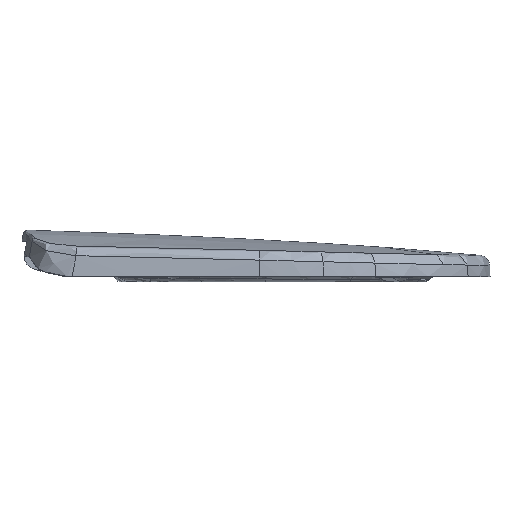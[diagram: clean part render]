
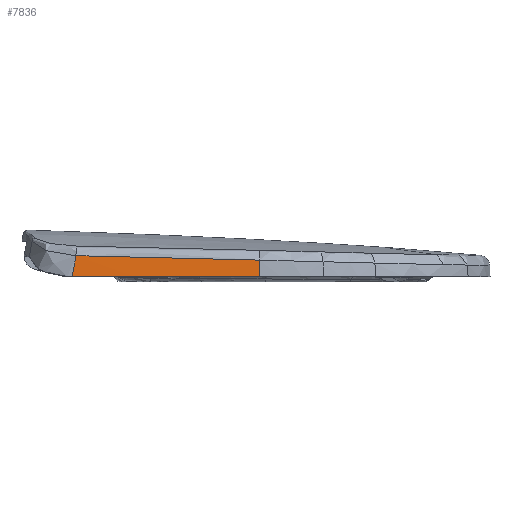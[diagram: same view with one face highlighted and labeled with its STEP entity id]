
A CAD part, left-side view. The second image highlights one B-rep face of the part: STEP entity #7836.
In plain terms, the highlighted conical face has half-angle 3 degrees and reference radius 19187.6 mm.
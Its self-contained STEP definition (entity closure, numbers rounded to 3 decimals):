
#89=CONICAL_SURFACE('',#8460,19187.577,0.052);
#207=LINE('',#54248,#329);
#329=VECTOR('',#9668,15.782);
#1244=B_SPLINE_CURVE_WITH_KNOTS('',3,(#54251,#54252,#54253,#54254,#54255,
#54256,#54257,#54258,#54259,#54260,#54261,#54262,#54263,#54264,#54265,#54266),
 .UNSPECIFIED.,.F.,.F.,(4,2,2,2,2,2,2,4),(0.,0.263,0.452,
0.567,0.607,0.824,0.917,1.),
 .UNSPECIFIED.);
#1245=B_SPLINE_CURVE_WITH_KNOTS('',3,(#54267,#54268,#54269,#54270,#54271,
#54272,#54273,#54274,#54275,#54276),.UNSPECIFIED.,.F.,.F.,(4,3,3,4),(0.,
0.333,0.667,1.),.UNSPECIFIED.);
#1748=FACE_OUTER_BOUND('',#2239,.T.);
#2239=EDGE_LOOP('',(#6513,#6514,#6515,#6516));
#2643=CIRCLE('',#8394,19188.1);
#3240=VERTEX_POINT('',#46383);
#3241=VERTEX_POINT('',#46385);
#3357=VERTEX_POINT('',#54048);
#3358=VERTEX_POINT('',#54250);
#4268=EDGE_CURVE('',#3240,#3241,#2643,.T.);
#4438=EDGE_CURVE('',#3357,#3240,#207,.T.);
#4439=EDGE_CURVE('',#3358,#3357,#1244,.T.);
#4440=EDGE_CURVE('',#3358,#3241,#1245,.T.);
#6513=ORIENTED_EDGE('',*,*,#4268,.F.);
#6514=ORIENTED_EDGE('',*,*,#4438,.F.);
#6515=ORIENTED_EDGE('',*,*,#4439,.F.);
#6516=ORIENTED_EDGE('',*,*,#4440,.T.);
#7836=ADVANCED_FACE('',(#1748),#89,.T.);
#8394=AXIS2_PLACEMENT_3D('',#46386,#9516,#9517);
#8460=AXIS2_PLACEMENT_3D('',#54249,#9669,#9670);
#9516=DIRECTION('center_axis',(0.,0.,-1.));
#9517=DIRECTION('ref_axis',(-1.,-0.002,0.));
#9668=DIRECTION('',(-0.052,0.,-0.999));
#9669=DIRECTION('center_axis',(0.,0.,-1.));
#9670=DIRECTION('ref_axis',(-1.,-0.002,0.));
#46383=CARTESIAN_POINT('',(-181.221,-212.206,5.));
#46385=CARTESIAN_POINT('',(-180.734,-33.157,5.));
#46386=CARTESIAN_POINT('Origin',(19006.843,-174.85,5.));
#54048=CARTESIAN_POINT('',(-180.395,-212.201,20.76));
#54248=CARTESIAN_POINT('',(-180.395,-212.201,20.76));
#54249=CARTESIAN_POINT('Origin',(19006.843,-174.85,14.985));
#54250=CARTESIAN_POINT('',(-179.714,-36.788,24.97));
#54251=CARTESIAN_POINT('Ctrl Pts',(-179.714,-36.788,24.97));
#54252=CARTESIAN_POINT('Ctrl Pts',(-179.841,-52.178,
24.655));
#54253=CARTESIAN_POINT('Ctrl Pts',(-179.95,-67.568,24.339));
#54254=CARTESIAN_POINT('Ctrl Pts',(-180.108,-94.,
23.746));
#54255=CARTESIAN_POINT('Ctrl Pts',(-180.165,-105.042,
23.483));
#54256=CARTESIAN_POINT('Ctrl Pts',(-180.242,-122.777,
23.054));
#54257=CARTESIAN_POINT('Ctrl Pts',(-180.267,-129.471,
22.89));
#54258=CARTESIAN_POINT('Ctrl Pts',(-180.297,-138.509,
22.666));
#54259=CARTESIAN_POINT('Ctrl Pts',(-180.305,-140.854,
22.607));
#54260=CARTESIAN_POINT('Ctrl Pts',(-180.349,-155.887,
22.231));
#54261=CARTESIAN_POINT('Ctrl Pts',(-180.374,-168.575,
21.907));
#54262=CARTESIAN_POINT('Ctrl Pts',(-180.393,-186.7,21.437));
#54263=CARTESIAN_POINT('Ctrl Pts',(-180.396,-192.138,
21.295));
#54264=CARTESIAN_POINT('Ctrl Pts',(-180.398,-202.451,
21.022));
#54265=CARTESIAN_POINT('Ctrl Pts',(-180.398,-207.326,
20.891));
#54266=CARTESIAN_POINT('Ctrl Pts',(-180.395,-212.201,
20.76));
#54267=CARTESIAN_POINT('Ctrl Pts',(-179.714,-36.788,24.97));
#54268=CARTESIAN_POINT('Ctrl Pts',(-179.818,-36.418,
22.938));
#54269=CARTESIAN_POINT('Ctrl Pts',(-179.925,-36.037,20.843));
#54270=CARTESIAN_POINT('Ctrl Pts',(-180.035,-35.646,
18.692));
#54271=CARTESIAN_POINT('Ctrl Pts',(-180.145,-35.255,
16.542));
#54272=CARTESIAN_POINT('Ctrl Pts',(-180.257,-34.854,14.335));
#54273=CARTESIAN_POINT('Ctrl Pts',(-180.374,-34.44,
12.055));
#54274=CARTESIAN_POINT('Ctrl Pts',(-180.49,-34.025,
9.775));
#54275=CARTESIAN_POINT('Ctrl Pts',(-180.61,-33.597,
7.421));
#54276=CARTESIAN_POINT('Ctrl Pts',(-180.734,-33.157,
5.));
